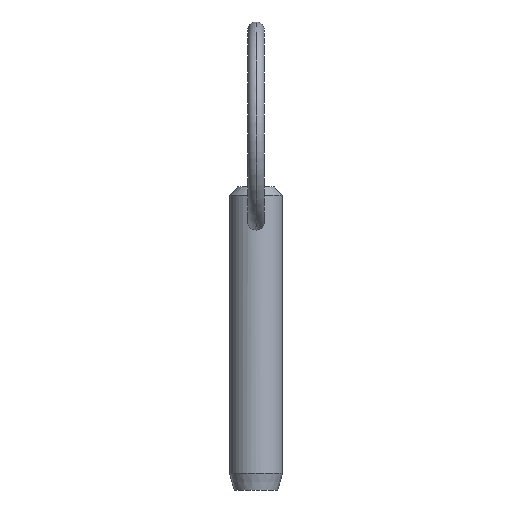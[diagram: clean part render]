
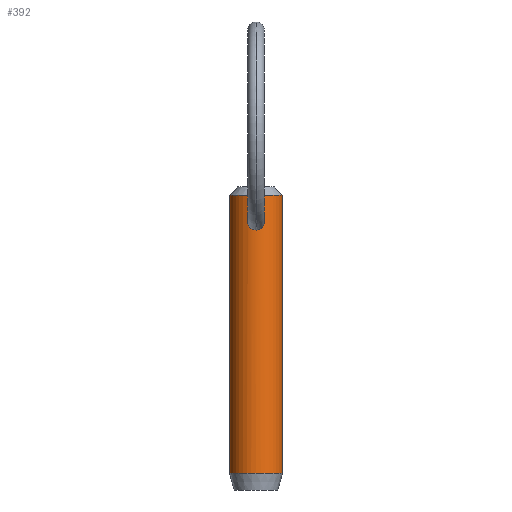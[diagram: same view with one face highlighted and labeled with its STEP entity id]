
A CAD part, front view. The second image highlights one B-rep face of the part: STEP entity #392.
In plain terms, the highlighted cylindrical face has radius 3.175 mm (diameter 6.35 mm), a partial arc.
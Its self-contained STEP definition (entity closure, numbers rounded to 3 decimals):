
#1 = CARTESIAN_POINT ( 'NONE',  ( -3.175, 0., 27.48 ) ) ;
#13 = VERTEX_POINT ( 'NONE', #359 ) ;
#14 = CARTESIAN_POINT ( 'NONE',  ( 0., -3.175, 23.303 ) ) ;
#16 = FACE_BOUND ( 'NONE', #332, .T. ) ;
#22 = VERTEX_POINT ( 'NONE', #409 ) ;
#23 = CARTESIAN_POINT ( 'NONE',  ( 0.268, -3.166, 23.329 ) ) ;
#26 = LINE ( 'NONE', #186, #336 ) ;
#28 = DIRECTION ( 'NONE',  ( 0., 0., -1. ) ) ;
#29 = B_SPLINE_CURVE_WITH_KNOTS ( 'NONE', 3,
 ( #407, #187, #482, #406, #410, #295, #50, #221, #89, #88, #222, #224, #481, #484, #260, #90, #155, #217 ),
 .UNSPECIFIED., .F., .F.,
 ( 4, 2, 2, 2, 2, 2, 2, 2, 4 ),
 ( 0.006, 0.006, 0.007, 0.007, 0.008, 0.008, 0.009, 0.009, 0.009 ),
 .UNSPECIFIED. ) ;
#32 = ORIENTED_EDGE ( 'NONE', *, *, #448, .T. ) ;
#44 = CARTESIAN_POINT ( 'NONE',  ( 0., 0., -5.92 ) ) ;
#50 = CARTESIAN_POINT ( 'NONE',  ( -0.888, -3.049, 23.809 ) ) ;
#52 = DIRECTION ( 'NONE',  ( 0., 0., -1. ) ) ;
#53 = EDGE_CURVE ( 'NONE', #142, #13, #29, .T. ) ;
#55 = AXIS2_PLACEMENT_3D ( 'NONE', #44, #288, #211 ) ;
#80 = CIRCLE ( 'NONE', #117, 3.175 ) ;
#88 = CARTESIAN_POINT ( 'NONE',  ( -0.991, -3.016, 24.596 ) ) ;
#89 = CARTESIAN_POINT ( 'NONE',  ( -1.004, -3.012, 24.195 ) ) ;
#90 = CARTESIAN_POINT ( 'NONE',  ( -0.133, -3.173, 25.374 ) ) ;
#103 = VERTEX_POINT ( 'NONE', #194 ) ;
#104 = CARTESIAN_POINT ( 'NONE',  ( 0., -3.175, 25.382 ) ) ;
#110 = ORIENTED_EDGE ( 'NONE', *, *, #476, .T. ) ;
#116 = DIRECTION ( 'NONE',  ( 1., 0., 0. ) ) ;
#117 = AXIS2_PLACEMENT_3D ( 'NONE', #121, #118, #116 ) ;
#118 = DIRECTION ( 'NONE',  ( 0., 0., -1. ) ) ;
#121 = CARTESIAN_POINT ( 'NONE',  ( 0., 0., 27.48 ) ) ;
#139 = CARTESIAN_POINT ( 'NONE',  ( 0.888, -3.049, 23.809 ) ) ;
#140 = CARTESIAN_POINT ( 'NONE',  ( 0.982, -3.02, 24.058 ) ) ;
#141 = CARTESIAN_POINT ( 'NONE',  ( 0.269, -3.166, 25.35 ) ) ;
#142 = VERTEX_POINT ( 'NONE', #375 ) ;
#155 = CARTESIAN_POINT ( 'NONE',  ( -0.067, -3.175, 25.382 ) ) ;
#174 = CARTESIAN_POINT ( 'NONE',  ( 0.617, -3.116, 25.151 ) ) ;
#186 = CARTESIAN_POINT ( 'NONE',  ( -3.175, 0., 22.9 ) ) ;
#187 = CARTESIAN_POINT ( 'NONE',  ( -0.134, -3.175, 23.303 ) ) ;
#190 = ORIENTED_EDGE ( 'NONE', *, *, #262, .T. ) ;
#194 = CARTESIAN_POINT ( 'NONE',  ( -3.175, 0., -5.92 ) ) ;
#198 = CARTESIAN_POINT ( 'NONE',  ( 0.134, -3.175, 23.303 ) ) ;
#211 = DIRECTION ( 'NONE',  ( -1., 0., 0. ) ) ;
#217 = CARTESIAN_POINT ( 'NONE',  ( 0., -3.175, 25.382 ) ) ;
#221 = CARTESIAN_POINT ( 'NONE',  ( -0.983, -3.02, 24.059 ) ) ;
#222 = CARTESIAN_POINT ( 'NONE',  ( -0.882, -3.055, 24.86 ) ) ;
#224 = CARTESIAN_POINT ( 'NONE',  ( -0.615, -3.116, 25.153 ) ) ;
#231 = CARTESIAN_POINT ( 'NONE',  ( 3.175, 0., 22.9 ) ) ;
#232 = VERTEX_POINT ( 'NONE', #1 ) ;
#239 = VERTEX_POINT ( 'NONE', #369 ) ;
#253 = EDGE_CURVE ( 'NONE', #22, #239, #467, .T. ) ;
#260 = CARTESIAN_POINT ( 'NONE',  ( -0.264, -3.165, 25.344 ) ) ;
#262 = EDGE_CURVE ( 'NONE', #13, #142, #394, .T. ) ;
#270 = CARTESIAN_POINT ( 'NONE',  ( 0.992, -3.016, 24.594 ) ) ;
#274 = CARTESIAN_POINT ( 'NONE',  ( 0.515, -3.135, 23.43 ) ) ;
#275 = CARTESIAN_POINT ( 'NONE',  ( 0.51, -3.136, 25.234 ) ) ;
#276 = AXIS2_PLACEMENT_3D ( 'NONE', #315, #28, #313 ) ;
#287 = DIRECTION ( 'NONE',  ( 0., 0., -1. ) ) ;
#288 = DIRECTION ( 'NONE',  ( 0., 0., 1. ) ) ;
#295 = CARTESIAN_POINT ( 'NONE',  ( -0.815, -3.07, 23.695 ) ) ;
#303 = CARTESIAN_POINT ( 'NONE',  ( 1.004, -3.012, 24.193 ) ) ;
#306 = FACE_OUTER_BOUND ( 'NONE', #445, .T. ) ;
#312 = CYLINDRICAL_SURFACE ( 'NONE', #276, 3.175 ) ;
#313 = DIRECTION ( 'NONE',  ( -1., 0., 0. ) ) ;
#315 = CARTESIAN_POINT ( 'NONE',  ( 0., 0., 22.9 ) ) ;
#332 = EDGE_LOOP ( 'NONE', ( #190, #342 ) ) ;
#336 = VECTOR ( 'NONE', #287, 1000. ) ;
#342 = ORIENTED_EDGE ( 'NONE', *, *, #53, .T. ) ;
#359 = CARTESIAN_POINT ( 'NONE',  ( 0., -3.175, 25.382 ) ) ;
#364 = VECTOR ( 'NONE', #52, 1000. ) ;
#369 = CARTESIAN_POINT ( 'NONE',  ( 3.175, 0., -5.92 ) ) ;
#375 = CARTESIAN_POINT ( 'NONE',  ( 0., -3.175, 23.303 ) ) ;
#378 = CARTESIAN_POINT ( 'NONE',  ( 0.815, -3.07, 23.695 ) ) ;
#379 = ORIENTED_EDGE ( 'NONE', *, *, #253, .F. ) ;
#381 = CARTESIAN_POINT ( 'NONE',  ( 0.628, -3.114, 23.504 ) ) ;
#382 = CIRCLE ( 'NONE', #55, 3.175 ) ;
#386 = CARTESIAN_POINT ( 'NONE',  ( 0.134, -3.175, 25.382 ) ) ;
#392 = ADVANCED_FACE ( 'NONE', ( #306, #16 ), #312, .T. ) ;
#394 = B_SPLINE_CURVE_WITH_KNOTS ( 'NONE', 3,
 ( #104, #386, #141, #275, #174, #463, #270, #303, #140, #139, #378, #381, #274, #23, #198, #14 ),
 .UNSPECIFIED., .F., .F.,
 ( 4, 2, 2, 2, 2, 2, 2, 4 ),
 ( 0.003, 0.003, 0.004, 0.004, 0.005, 0.005, 0.006, 0.006 ),
 .UNSPECIFIED. ) ;
#406 = CARTESIAN_POINT ( 'NONE',  ( -0.516, -3.135, 23.431 ) ) ;
#407 = CARTESIAN_POINT ( 'NONE',  ( 0., -3.175, 23.303 ) ) ;
#409 = CARTESIAN_POINT ( 'NONE',  ( 3.175, 0., 27.48 ) ) ;
#410 = CARTESIAN_POINT ( 'NONE',  ( -0.629, -3.114, 23.505 ) ) ;
#415 = ORIENTED_EDGE ( 'NONE', *, *, #443, .T. ) ;
#443 = EDGE_CURVE ( 'NONE', #103, #239, #382, .T. ) ;
#445 = EDGE_LOOP ( 'NONE', ( #379, #32, #110, #415 ) ) ;
#448 = EDGE_CURVE ( 'NONE', #22, #232, #80, .T. ) ;
#463 = CARTESIAN_POINT ( 'NONE',  ( 0.884, -3.055, 24.857 ) ) ;
#467 = LINE ( 'NONE', #231, #364 ) ;
#476 = EDGE_CURVE ( 'NONE', #232, #103, #26, .T. ) ;
#481 = CARTESIAN_POINT ( 'NONE',  ( -0.508, -3.136, 25.235 ) ) ;
#482 = CARTESIAN_POINT ( 'NONE',  ( -0.269, -3.166, 23.329 ) ) ;
#484 = CARTESIAN_POINT ( 'NONE',  ( -0.328, -3.159, 25.321 ) ) ;
